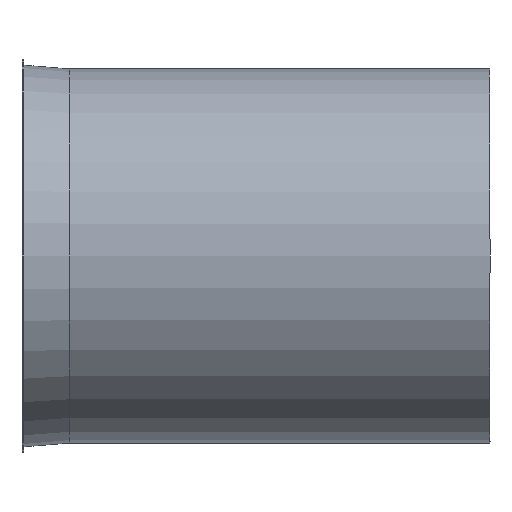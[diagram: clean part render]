
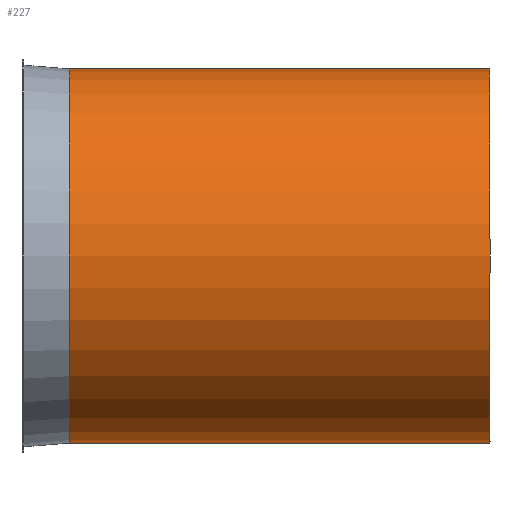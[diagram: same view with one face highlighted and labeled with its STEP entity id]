
A CAD part, front view. The second image highlights one B-rep face of the part: STEP entity #227.
In plain terms, the highlighted cylindrical face has radius 197 mm (diameter 394 mm), a full revolution.
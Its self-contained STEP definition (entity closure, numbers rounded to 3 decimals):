
#132=CARTESIAN_POINT('',(22.919,46.834,0.0));
#133=VERTEX_POINT('',#132);
#134=CARTESIAN_POINT('',(22.919,243.834,0.0));
#135=DIRECTION('',(-1.0,0.0,0.0));
#136=DIRECTION('',(0.0,-1.0,0.0));
#137=AXIS2_PLACEMENT_3D('',#134,#135,#136);
#138=CIRCLE('',#137,197.);
#139=EDGE_CURVE('',#133,#133,#138,.T.);
#201=CARTESIAN_POINT('',(465.919,46.834,0.0));
#202=VERTEX_POINT('',#201);
#203=CARTESIAN_POINT('',(465.919,243.834,0.0));
#204=DIRECTION('',(-1.0,0.0,0.0));
#205=DIRECTION('',(0.0,-1.0,0.0));
#206=AXIS2_PLACEMENT_3D('',#203,#204,#205);
#207=CIRCLE('',#206,197.);
#208=EDGE_CURVE('',#202,#202,#207,.T.);
#216=CARTESIAN_POINT('',(244.419,243.834,0.0));
#217=DIRECTION('',(-1.0,0.,0.0));
#218=DIRECTION('',(0.0,-1.0,0.0));
#219=AXIS2_PLACEMENT_3D('',#216,#217,#218);
#220=CYLINDRICAL_SURFACE('',#219,197.);
#221=ORIENTED_EDGE('',*,*,#139,.F.);
#222=EDGE_LOOP('',(#221));
#223=FACE_OUTER_BOUND('',#222,.T.);
#224=ORIENTED_EDGE('',*,*,#208,.T.);
#225=EDGE_LOOP('',(#224));
#226=FACE_BOUND('',#225,.T.);
#227=ADVANCED_FACE('',(#223,#226),#220,.T.);
